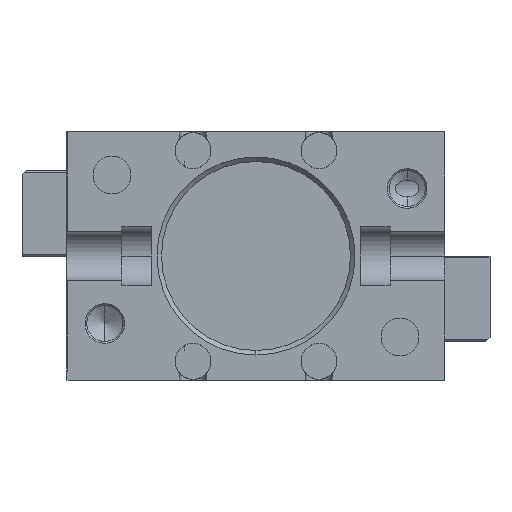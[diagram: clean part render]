
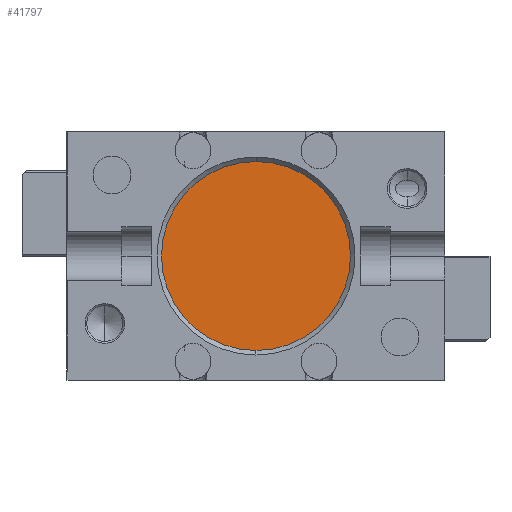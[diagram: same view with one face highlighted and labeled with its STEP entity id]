
A CAD part, front view. The second image highlights one B-rep face of the part: STEP entity #41797.
In plain terms, the highlighted planar face has unit normal (0, -1, 0).
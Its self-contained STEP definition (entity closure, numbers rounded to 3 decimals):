
#106 = DIRECTION ( 'NONE',  ( 0., -1., 0. ) ) ;
#5728 = ORIENTED_EDGE ( 'NONE', *, *, #34366, .T. ) ;
#6126 = FACE_OUTER_BOUND ( 'NONE', #11614, .T. ) ;
#7997 = ORIENTED_EDGE ( 'NONE', *, *, #31834, .T. ) ;
#9137 = CARTESIAN_POINT ( 'NONE',  ( 0., 3., 0. ) ) ;
#11614 = EDGE_LOOP ( 'NONE', ( #7997, #5728 ) ) ;
#12894 = DIRECTION ( 'NONE',  ( 0., 0., -1. ) ) ;
#15029 = CIRCLE ( 'NONE', #37189, 10.5 ) ;
#17315 = DIRECTION ( 'NONE',  ( 0., -1., 0. ) ) ;
#22375 = CARTESIAN_POINT ( 'NONE',  ( 0., 3., 0. ) ) ;
#25440 = VERTEX_POINT ( 'NONE', #46620 ) ;
#26128 = DIRECTION ( 'NONE',  ( 0., 0., -1. ) ) ;
#27676 = PLANE ( 'NONE',  #29516 ) ;
#29516 = AXIS2_PLACEMENT_3D ( 'NONE', #9137, #35140, #12894 ) ;
#30272 = CIRCLE ( 'NONE', #38338, 10.5 ) ;
#31834 = EDGE_CURVE ( 'NONE', #48242, #25440, #30272, .T. ) ;
#33579 = CARTESIAN_POINT ( 'NONE',  ( 0., 3., -10.5 ) ) ;
#34366 = EDGE_CURVE ( 'NONE', #25440, #48242, #15029, .T. ) ;
#35140 = DIRECTION ( 'NONE',  ( 0., -1., 0. ) ) ;
#37189 = AXIS2_PLACEMENT_3D ( 'NONE', #39520, #17315, #43285 ) ;
#38338 = AXIS2_PLACEMENT_3D ( 'NONE', #22375, #106, #26128 ) ;
#39520 = CARTESIAN_POINT ( 'NONE',  ( 0., 3., 0. ) ) ;
#41797 = ADVANCED_FACE ( 'NONE', ( #6126 ), #27676, .T. ) ;
#43285 = DIRECTION ( 'NONE',  ( 0., 0., -1. ) ) ;
#46620 = CARTESIAN_POINT ( 'NONE',  ( 0., 3., 10.5 ) ) ;
#48242 = VERTEX_POINT ( 'NONE', #33579 ) ;
